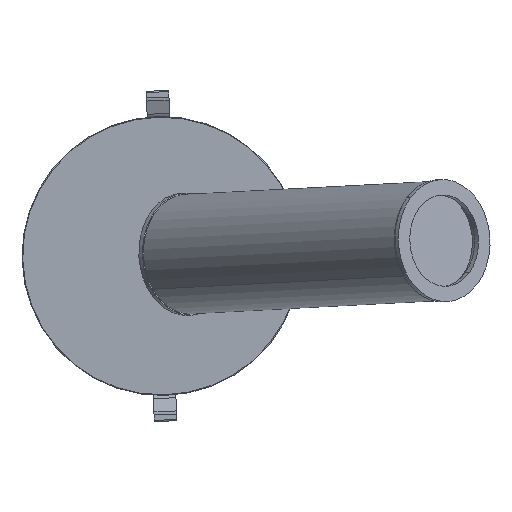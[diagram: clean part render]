
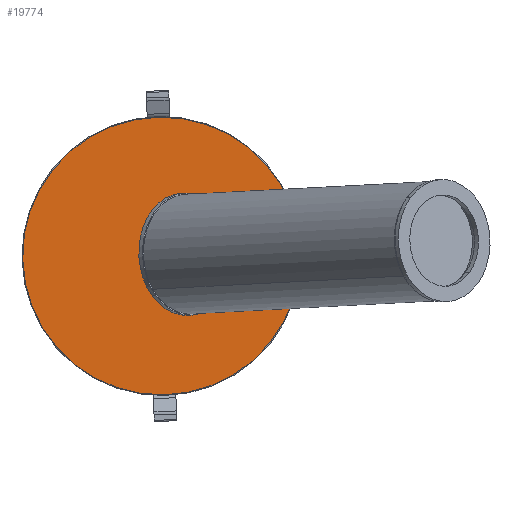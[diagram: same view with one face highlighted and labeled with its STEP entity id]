
A CAD part, front view. The second image highlights one B-rep face of the part: STEP entity #19774.
In plain terms, the highlighted planar face has unit normal (0, -1, 0).
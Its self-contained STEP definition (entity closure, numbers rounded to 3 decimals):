
#298 = PLANE ( 'NONE',  #3426 ) ;
#1379 = DIRECTION ( 'NONE',  ( 0., 0., 1. ) ) ;
#1451 = VERTEX_POINT ( 'NONE', #29869 ) ;
#2312 = EDGE_CURVE ( 'NONE', #3789, #1451, #28215, .T. ) ;
#3023 = DIRECTION ( 'NONE',  ( 0., 0., 1. ) ) ;
#3096 = CARTESIAN_POINT ( 'NONE',  ( 0., 0., 49.75 ) ) ;
#3333 = CARTESIAN_POINT ( 'NONE',  ( 0., 0., 0. ) ) ;
#3408 = ORIENTED_EDGE ( 'NONE', *, *, #23288, .T. ) ;
#3426 = AXIS2_PLACEMENT_3D ( 'NONE', #3333, #18897, #3023 ) ;
#3596 = DIRECTION ( 'NONE',  ( 0., 0., 1. ) ) ;
#3604 = DIRECTION ( 'NONE',  ( 0., -1., 0. ) ) ;
#3640 = EDGE_LOOP ( 'NONE', ( #19990, #23500 ) ) ;
#3787 = AXIS2_PLACEMENT_3D ( 'NONE', #16029, #29881, #20889 ) ;
#3789 = VERTEX_POINT ( 'NONE', #16834 ) ;
#7750 = FACE_OUTER_BOUND ( 'NONE', #16543, .T. ) ;
#7913 = DIRECTION ( 'NONE',  ( 0., -1., 0. ) ) ;
#8470 = CARTESIAN_POINT ( 'NONE',  ( 0., 0., 0. ) ) ;
#8917 = DIRECTION ( 'NONE',  ( 0., 1., 0. ) ) ;
#12689 = EDGE_CURVE ( 'NONE', #20555, #17579, #15549, .T. ) ;
#12794 = CARTESIAN_POINT ( 'NONE',  ( 0., 0., 0. ) ) ;
#12898 = DIRECTION ( 'NONE',  ( 0., 0., 1. ) ) ;
#15549 = CIRCLE ( 'NONE', #16023, 49.75 ) ;
#16023 = AXIS2_PLACEMENT_3D ( 'NONE', #17489, #3604, #12898 ) ;
#16029 = CARTESIAN_POINT ( 'NONE',  ( 0., 0., 0. ) ) ;
#16054 = AXIS2_PLACEMENT_3D ( 'NONE', #8470, #8917, #3596 ) ;
#16445 = CIRCLE ( 'NONE', #3787, 5. ) ;
#16543 = EDGE_LOOP ( 'NONE', ( #26654, #3408 ) ) ;
#16834 = CARTESIAN_POINT ( 'NONE',  ( 0., 0., -5. ) ) ;
#17489 = CARTESIAN_POINT ( 'NONE',  ( 0., 0., 0. ) ) ;
#17579 = VERTEX_POINT ( 'NONE', #21200 ) ;
#18897 = DIRECTION ( 'NONE',  ( 0., 1., 0. ) ) ;
#19774 = ADVANCED_FACE ( 'NONE', ( #7750, #26494 ), #298, .F. ) ;
#19990 = ORIENTED_EDGE ( 'NONE', *, *, #2312, .T. ) ;
#20555 = VERTEX_POINT ( 'NONE', #3096 ) ;
#20889 = DIRECTION ( 'NONE',  ( 0., 0., 1. ) ) ;
#21200 = CARTESIAN_POINT ( 'NONE',  ( 0., 0., -49.75 ) ) ;
#23263 = CIRCLE ( 'NONE', #24243, 49.75 ) ;
#23288 = EDGE_CURVE ( 'NONE', #17579, #20555, #23263, .T. ) ;
#23500 = ORIENTED_EDGE ( 'NONE', *, *, #28509, .T. ) ;
#24243 = AXIS2_PLACEMENT_3D ( 'NONE', #12794, #7913, #1379 ) ;
#26494 = FACE_BOUND ( 'NONE', #3640, .T. ) ;
#26654 = ORIENTED_EDGE ( 'NONE', *, *, #12689, .T. ) ;
#28215 = CIRCLE ( 'NONE', #16054, 5. ) ;
#28509 = EDGE_CURVE ( 'NONE', #1451, #3789, #16445, .T. ) ;
#29869 = CARTESIAN_POINT ( 'NONE',  ( 0., 0., 5. ) ) ;
#29881 = DIRECTION ( 'NONE',  ( 0., 1., 0. ) ) ;
